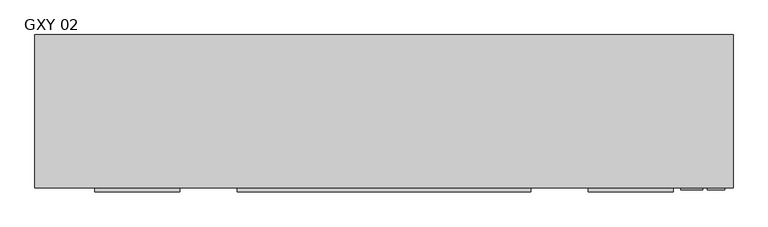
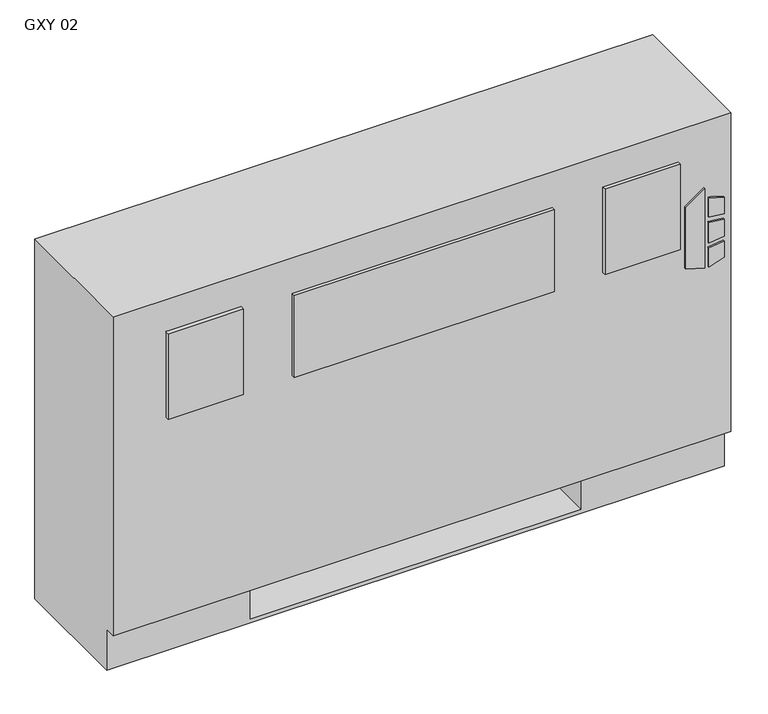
"""IFC4 building model written with IfcOpenShell, lengths in millimetres: proxy geometry, Vertical_Fan_Coil_Unit_-_GXY_-_IEC_-_2-Pipe_FS-FR_RH_2022 : GXY 02."""

import ifcopenshell
import ifcopenshell.guid

model = None  # the IFC model being written
_history = None  # IfcOwnerHistory: only IFC2X3 demands one
_inside = {}  # id of a spatial element -> (the spatial element, [elements in it])
_under = {}  # id of a project, library or spatial element -> (it, [spatial elements below it])
_declared = {}  # id of a project -> (the project, [libraries it declares])
_typed = {}  # id of a type object -> (the type object, [elements of that type])
_made_of = {}  # id of a material, layer set ... -> (it, [elements and type objects made of it])


def new_model(schema):
    """Start an empty IFC model of exactly this schema.

    Asked for "IFC4X3", IfcOpenShell would pick the latest addendum, in which some entities
    have other attributes; the version numbers below select the first issue.
    IFC2X3 requires an IfcOwnerHistory on every rooted entity: one is made here for all.
    """
    global model, _history
    if schema == "IFC4X3":
        model = ifcopenshell.file(schema_version=(4, 3, 0, 0))
    else:
        model = ifcopenshell.file(schema=schema)
    _inside.clear()
    _under.clear()
    _declared.clear()
    _typed.clear()
    _made_of.clear()
    _history = None
    if model.schema == "IFC2X3":
        org = make("IfcOrganization", Name="unknown")
        user = make(
            "IfcPersonAndOrganization",
            ThePerson=make("IfcPerson", FamilyName="unknown"),
            TheOrganization=org,
        )
        app = make(
            "IfcApplication",
            ApplicationDeveloper=org,
            Version="unknown",
            ApplicationFullName="unknown",
            ApplicationIdentifier="unknown",
        )
        _history = make(
            "IfcOwnerHistory",
            OwningUser=user,
            OwningApplication=app,
            ChangeAction="ADDED",
            CreationDate=0,
        )
    return model


def make(cls, **values):
    """One entity of the class cls with the attributes given. An attribute that is None is left unset."""
    return model.create_entity(
        cls, **{name: value for name, value in values.items() if value is not None}
    )


def rooted(cls, **values):
    """An entity with a GlobalId (a new one), such as an element, a storey or a relation."""
    return make(cls, GlobalId=ifcopenshell.guid.new(), OwnerHistory=_history, **values)


def si_unit(unit_type, name, prefix=None):
    """IfcSIUnit, for example si_unit("LENGTHUNIT", "METRE", prefix="MILLI")."""
    return make("IfcSIUnit", UnitType=unit_type, Prefix=prefix, Name=name)


def assignment(units):
    """IfcUnitAssignment: the units of a project."""
    return None if units is None else make("IfcUnitAssignment", Units=units)


def point(xyz):
    """IfcCartesianPoint."""
    return None if xyz is None else make("IfcCartesianPoint", Coordinates=xyz)


def direction(xyz):
    """IfcDirection."""
    return None if xyz is None else make("IfcDirection", DirectionRatios=xyz)


def frame(location, z_axis=None, x_axis=None):
    """IfcAxis2Placement3D, a coordinate frame: its origin and axes. An axis left out is left unset."""
    return make(
        "IfcAxis2Placement3D",
        Location=point(location),
        Axis=direction(z_axis),
        RefDirection=direction(x_axis),
    )


def frame_2d(location, x_axis=None):
    """IfcAxis2Placement2D, a coordinate frame in the plane: its origin and x axis."""
    return make(
        "IfcAxis2Placement2D", Location=point(location), RefDirection=direction(x_axis)
    )


def origin():
    """The frame at (0, 0, 0) with its axes left unset."""
    return frame((0.0, 0.0, 0.0))


def place(relative_to, where):
    """IfcLocalPlacement: puts the frame where relative to a parent placement (None: the world)."""
    return make(
        "IfcLocalPlacement", PlacementRelTo=relative_to, RelativePlacement=where
    )


def context(
    kind, dimensions, precision=None, world=None, true_north=None, identifier=None
):
    """IfcGeometricRepresentationContext, for example the 3D "Model" context."""
    return make(
        "IfcGeometricRepresentationContext",
        ContextIdentifier=identifier,
        ContextType=kind,
        CoordinateSpaceDimension=dimensions,
        Precision=precision,
        WorldCoordinateSystem=world,
        TrueNorth=true_north,
    )


def project(units=None, contexts=None):
    """IfcProject with its units and contexts."""
    return rooted(
        "IfcProject",
        Name="project",
        RepresentationContexts=contexts,
        UnitsInContext=assignment(units),
    )


def spatial(cls, under=None, at=None, **own):
    """A site, building, storey or space (cls), placed at a placement, below another one or the project."""
    s = rooted(cls, ObjectPlacement=at, **own)
    if under is not None:
        _under.setdefault(under.id(), (under, []))[1].append(s)
    return s


def polyline(points):
    """IfcPolyline through the points."""
    return make("IfcPolyline", Points=[point(p) for p in points])


def circle_curve(where, radius):
    """IfcCircle in the frame where."""
    return make("IfcCircle", Position=where, Radius=radius)


def trimmed(basis, trim1, trim2, sense, master):
    """IfcTrimmedCurve: the piece of a basis curve between two trims."""
    return make(
        "IfcTrimmedCurve",
        BasisCurve=basis,
        Trim1=trim1,
        Trim2=trim2,
        SenseAgreement=sense,
        MasterRepresentation=master,
    )


def segment(curve, same_sense, transition):
    """IfcCompositeCurveSegment."""
    return make(
        "IfcCompositeCurveSegment",
        Transition=transition,
        SameSense=same_sense,
        ParentCurve=curve,
    )


def composite_curve(segments, self_intersect=None):
    """IfcCompositeCurve: segments joined end to end."""
    return make("IfcCompositeCurve", Segments=segments, SelfIntersect=self_intersect)


def outline(outer, holes=None, kind="AREA"):
    """IfcArbitraryClosedProfileDef: a profile drawn as a closed curve; with holes, ...WithVoids."""
    if holes is None:
        return make("IfcArbitraryClosedProfileDef", ProfileType=kind, OuterCurve=outer)
    return make(
        "IfcArbitraryProfileDefWithVoids",
        ProfileType=kind,
        OuterCurve=outer,
        InnerCurves=holes,
    )


def extrude(swept, where, along, depth):
    """IfcExtrudedAreaSolid: the profile swept, set in the frame where, extruded along a direction by depth."""
    return make(
        "IfcExtrudedAreaSolid",
        SweptArea=swept,
        Position=where,
        ExtrudedDirection=direction(along),
        Depth=depth,
    )


def shape(context_of_items, identifier, shape_type, items):
    """IfcShapeRepresentation: the items that make up one representation, for example the "Body"."""
    return make(
        "IfcShapeRepresentation",
        ContextOfItems=context_of_items,
        RepresentationIdentifier=identifier,
        RepresentationType=shape_type,
        Items=items,
    )


def source(mapping_origin, context_of_items, identifier, shape_type, items):
    """IfcRepresentationMap: a shape defined once, which mapped items show again and again."""
    return make(
        "IfcRepresentationMap",
        MappingOrigin=mapping_origin,
        MappedRepresentation=shape(context_of_items, identifier, shape_type, items),
    )


def transform(
    local_origin,
    x_axis=None,
    y_axis=None,
    z_axis=None,
    scale=None,
    scale2=None,
    scale3=None,
    uniform=True,
):
    """IfcCartesianTransformationOperator3D, or its non-uniform kind. x_axis, y_axis, z_axis: its Axis1, 2, 3."""
    if uniform:
        return make(
            "IfcCartesianTransformationOperator3D",
            Axis1=direction(x_axis),
            Axis2=direction(y_axis),
            LocalOrigin=point(local_origin),
            Scale=scale,
            Axis3=direction(z_axis),
        )
    return make(
        "IfcCartesianTransformationOperator3DnonUniform",
        Axis1=direction(x_axis),
        Axis2=direction(y_axis),
        LocalOrigin=point(local_origin),
        Scale=scale,
        Axis3=direction(z_axis),
        Scale2=scale2,
        Scale3=scale3,
    )


def mapped(mapping_source, mapping_target):
    """IfcMappedItem: shows the shape of a source again, moved by a transform."""
    return make(
        "IfcMappedItem", MappingSource=mapping_source, MappingTarget=mapping_target
    )


def made_of(thing, what):
    """Note that an element or type object is made of a material, layer set ...; save() writes the relation."""
    if what is not None:
        _made_of.setdefault(what.id(), (what, []))[1].append(thing)
    return thing


def element(
    cls,
    number,
    at=None,
    inside=None,
    cuts=None,
    type_object=None,
    material=None,
    context=None,
    identifier="Body",
    shape_type=None,
    held_by="IfcProductDefinitionShape",
    body=None,
    shapes=None,
    **own,
):
    """One element of the class cls, such as IfcWall. Its Tag is "e" and its number.

    at: its placement. inside: the storey or other place that contains it. cuts: it is an
    opening in that element (IfcRelVoidsElement). A single representation is given by context,
    identifier, shape_type and body (its items); several are given by shapes. held_by: the class
    of the entity that holds the representations. save() writes the other relations.
    """
    e = rooted(cls, Tag="e%d" % number, ObjectPlacement=at, **own)
    if body is not None:
        shapes = [shape(context, identifier, shape_type, body)]
    if shapes is not None:
        e.Representation = make(held_by, Representations=shapes)
    if inside is not None:
        _inside.setdefault(inside.id(), (inside, []))[1].append(e)
    if cuts is not None:
        rooted(
            "IfcRelVoidsElement", RelatingBuildingElement=cuts, RelatedOpeningElement=e
        )
    if type_object is not None:
        _typed.setdefault(type_object.id(), (type_object, []))[1].append(e)
    return made_of(e, material)


def aggregate(whole, parts):
    """IfcRelAggregates: a whole, such as a stair, and the parts it consists of."""
    return rooted("IfcRelAggregates", RelatingObject=whole, RelatedObjects=parts)


def save(model, path):
    """Write the relations noted so far, then the file.

    IfcRelAggregates (storeys below a building ...), IfcRelContainedInSpatialStructure (elements
    in a storey), IfcRelDefinesByType, IfcRelAssociatesMaterial and IfcRelDeclares: one each for
    every whole, place, type object, material and project.
    """
    for whole, parts in _under.values():
        aggregate(whole, parts)
    for where, things in _inside.values():
        rooted(
            "IfcRelContainedInSpatialStructure",
            RelatedElements=things,
            RelatingStructure=where,
        )
    for kind, things in _typed.values():
        rooted("IfcRelDefinesByType", RelatedObjects=things, RelatingType=kind)
    for what, things in _made_of.values():
        rooted("IfcRelAssociatesMaterial", RelatedObjects=things, RelatingMaterial=what)
    for by, libraries in _declared.values():
        rooted("IfcRelDeclares", RelatingContext=by, RelatedDefinitions=libraries)
    model.write(path)


def plane_surface(at):
    """IfcPlane: the flat surface through the origin of the frame at, square to its z axis."""
    return make("IfcPlane", Position=at)


def revolved_surface(curve, axis_point, axis_direction):
    """IfcSurfaceOfRevolution: the curve turned about the line through axis_point along axis_direction."""
    return make(
        "IfcSurfaceOfRevolution",
        SweptCurve=make("IfcArbitraryOpenProfileDef", ProfileType="CURVE", Curve=curve),
        AxisPosition=make("IfcAxis1Placement", Location=point(axis_point), Axis=direction(axis_direction)),
    )


def advanced_brep(points, edges, surfaces, faces):
    """IfcAdvancedBrep: a solid bounded by faces that lie on surfaces and meet in shared edges.

    An edge is (start, end): straight between two places in points (the first is 0);
    or (start, end, curve); or (start, end, curve, False) where it runs against its curve.
    A face is (place in surfaces, loops), or (place, loops, False) where it looks against
    its surface's normal. A loop lists edges by number (the first is 1), with a minus sign
    where the edge is run from its end to its start. The first loop is the outer one.
    """
    corners = [point(p) for p in points]
    vertices = [make("IfcVertexPoint", VertexGeometry=c) for c in corners]
    made = []
    for start, end, *more in edges:
        made.append(
            make(
                "IfcEdgeCurve",
                EdgeStart=vertices[start],
                EdgeEnd=vertices[end],
                EdgeGeometry=more[0] if more else make("IfcPolyline", Points=[corners[start], corners[end]]),
                SameSense=more[1] if len(more) > 1 else True,
            )
        )
    hull = []
    for where, loops, *sense in faces:
        bounds = []
        for j, loop in enumerate(loops):
            ring = [make("IfcOrientedEdge", EdgeElement=made[abs(k) - 1], Orientation=k > 0) for k in loop]
            bounds.append(
                make(
                    "IfcFaceOuterBound" if j == 0 else "IfcFaceBound",
                    Bound=make("IfcEdgeLoop", EdgeList=ring),
                    Orientation=True,
                )
            )
        hull.append(make("IfcAdvancedFace", Bounds=bounds, FaceSurface=surfaces[where], SameSense=sense[0] if sense else True))
    return make("IfcAdvancedBrep", Outer=make("IfcClosedShell", CfsFaces=hull))


def gxy_02_ee521cdb(model_context):
    return source(origin(), model_context, "Body", "SolidModel", [
        extrude(outline(polyline([(391.6086829, 595.3868862), (381.6606126, 627.5602728), (523.831537, 627.5602728), (500.8095309, 595.3868862), (391.6086829, 595.3868862)])), frame((0.0, 12.7, 0.0), z_axis=(0.0, 1.0, 0.0), x_axis=(0.0, 0.0, 1.0)), (0.0, 0.0, 1.0), 3.175),
        extrude(outline(polyline([(470.6079683, 634.3186058), (467.4055757, 660.4), (496.6344168, 660.4), (504.6988318, 634.3186058), (470.6079683, 634.3186058)])), frame((0.0, 12.7, 0.0), z_axis=(0.0, 1.0, 0.0), x_axis=(0.0, 0.0, 1.0)), (0.0, 0.0, 1.0), 3.175),
        extrude(outline(polyline([(418.7444414, 660.4), (415.0789404, 634.3186058), (381.6606126, 634.3186058), (390.2948498, 660.4), (418.7444414, 660.4)])), frame((0.0, 12.7, 0.0), z_axis=(0.0, 1.0, 0.0), x_axis=(0.0, 0.0, 1.0)), (0.0, 0.0, 1.0), 3.175),
        extrude(outline(polyline([(458.0596028, 660.4), (460.3414292, 634.3186058), (424.4038806, 634.3186058), (427.1451456, 660.4), (458.0596028, 660.4)])), frame((0.0, 12.7, 0.0), z_axis=(0.0, 1.0, 0.0), x_axis=(0.0, 0.0, 1.0)), (0.0, 0.0, 1.0), 3.175),
        extrude(outline(polyline([(-152.4, 9.525), (-279.4, 9.525), (-279.4, 15.875), (-152.4, 15.875), (-152.4, 9.525)])), frame((0.0, 0.0, 431.8), z_axis=(0.0, 0.0, 1.0), x_axis=(1.0, 0.0, 0.0)), (0.0, 0.0, 1.0), 152.4),
        extrude(outline(polyline([(371.475, 9.525), (-66.675, 9.525), (-66.675, 15.875), (371.475, 15.875), (371.475, 9.525)])), frame((0.0, 0.0, 431.8), z_axis=(0.0, 0.0, 1.0), x_axis=(1.0, 0.0, 0.0)), (0.0, 0.0, 1.0), 146.05),
        extrude(outline(polyline([(584.2, 9.525), (457.2, 9.525), (457.2, 15.875), (584.2, 15.875), (584.2, 9.525)])), frame((0.0, 0.0, 431.8), z_axis=(0.0, 0.0, 1.0), x_axis=(1.0, 0.0, 0.0)), (0.0, 0.0, 1.0), 152.4),
        extrude(outline(polyline([(-247.65, 81.534), (-247.65, 223.266), (-127.0, 223.266), (-127.0, 81.534), (-247.65, 81.534)])), frame((0.0, 0.0, 327.025), z_axis=(0.0, 0.0, 1.0), x_axis=(1.0, 0.0, 0.0)), (0.0, 0.0, 1.0), 260.35),
        extrude(outline(composite_curve([segment(trimmed(circle_curve(frame_2d((78.9432, 398.5514)), 7.9375), [point((78.9432, 406.4889))], [point((78.9432, 390.6139))], False, "CARTESIAN"), True, "CONTINUOUS"), segment(trimmed(circle_curve(frame_2d((78.9432, 398.5514)), 7.9375), [point((78.9432, 390.6139))], [point((78.9432, 406.4889))], False, "CARTESIAN"), True, "CONTINUOUS")], self_intersect=False)), frame((431.8, 0.0, 0.0), z_axis=(1.0, 0.0, 0.0), x_axis=(0.0, 1.0, 0.0)), (0.0, 0.0, 1.0), 50.8),
        extrude(outline(composite_curve([segment(trimmed(circle_curve(frame_2d((155.9052, 537.3878)), 7.9375), [point((155.9052, 545.3253))], [point((155.9052, 529.4503))], False, "CARTESIAN"), True, "CONTINUOUS"), segment(trimmed(circle_curve(frame_2d((155.9052, 537.3878)), 7.9375), [point((155.9052, 529.4503))], [point((155.9052, 545.3253))], False, "CARTESIAN"), True, "CONTINUOUS")], self_intersect=False)), frame((431.8, 0.0, 0.0), z_axis=(1.0, 0.0, 0.0), x_axis=(0.0, 1.0, 0.0)), (0.0, 0.0, 1.0), 50.8),
        advanced_brep(
        [(673.1, 244.475, 641.35), (-368.3, 244.475, 641.35), (-368.3, 15.875, 641.35), (673.1, 15.875, 641.35), (-368.3, 244.475, 0.0), (673.1, 244.475, 0.0), (673.1, 34.925, 0.0), (-368.3, 34.925, 0.0), (431.8, 244.475, 73.025), (660.4, 244.475, 73.025), (660.4, 244.475, 628.65), (431.8, 244.475, 628.65), (431.8, 244.475, 418.0400565), (460.375, 244.475, 418.0400565), (460.375, 244.475, 388.4099435), (431.8, 244.475, 388.4099435), (431.8, 244.475, 290.5125), (460.375, 244.475, 290.5125), (460.375, 244.475, 261.9375), (431.8, 244.475, 261.9375), (431.8, 244.475, 119.0625), (460.375, 244.475, 119.0625), (460.375, 244.475, 90.4875), (431.8, 244.475, 90.4875), (-127.0, 244.475, 628.65), (-355.6, 244.475, 628.65), (-355.6, 244.475, 73.025), (-127.0, 244.475, 73.025), (-127.0, 244.475, 90.4875), (-155.575, 244.475, 90.4875), (-155.575, 244.475, 119.0625), (-127.0, 244.475, 119.0625), (-127.0, 244.475, 261.9375), (-155.575, 244.475, 261.9375), (-155.575, 244.475, 290.5125), (-127.0, 244.475, 290.5125), (-127.0, 244.475, 388.4099435), (-155.575, 244.475, 388.4099435), (-155.575, 244.475, 418.0400565), (-127.0, 244.475, 418.0400565), (450.0626, 244.475, 104.775), (438.9374, 244.475, 104.775), (450.0626, 244.475, 403.225), (438.9374, 244.475, 403.225), (450.0626, 244.475, 276.225), (438.9374, 244.475, 276.225), (-134.1374, 244.475, 104.775), (-145.2626, 244.475, 104.775), (-134.1374, 244.475, 276.225), (-145.2626, 244.475, 276.225), (-134.1374, 244.475, 403.225), (-145.2626, 244.475, 403.225), (-368.3, 34.925, 73.025), (-368.3, 15.875, 73.025), (673.1, 15.875, 73.025), (673.1, 34.925, 73.025), (-127.0, 34.925, 73.025), (-127.0, 219.075, 73.025), (431.8, 219.075, 73.025), (431.8, 34.925, 73.025), (431.8, 34.925, 6.35), (-127.0, 34.925, 6.35), (431.8, 41.275, 628.65), (660.4, 41.275, 628.65), (660.4, 41.275, 73.025), (431.8, 41.275, 73.025), (-127.0, 41.275, 628.65), (-127.0, 41.275, 73.025), (-355.6, 41.275, 73.025), (-355.6, 41.275, 628.65), (431.8, 219.075, 73.025), (431.8, 238.125, 90.4875), (431.8, 238.125, 119.0625), (431.8, 238.125, 261.9375), (431.8, 238.125, 290.5125), (431.8, 238.125, 388.4099435), (431.8, 238.125, 418.0400565), (-127.0, 219.075, 73.025), (-127.0, 238.125, 418.0400565), (-127.0, 238.125, 388.4099435), (-127.0, 238.125, 290.5125), (-127.0, 238.125, 261.9375), (-127.0, 238.125, 119.0625), (-127.0, 238.125, 90.4875), (-127.0, 219.075, 6.35), (431.8, 219.075, 6.35), (460.375, 238.125, 90.4875), (460.375, 238.125, 119.0625), (438.9374, 238.125, 104.775), (450.0626, 238.125, 104.775), (460.375, 238.125, 261.9375), (460.375, 238.125, 290.5125), (438.9374, 238.125, 276.225), (450.0626, 238.125, 276.225), (460.375, 238.125, 388.4099435), (460.375, 238.125, 418.0400565), (438.9374, 238.125, 403.225), (450.0626, 238.125, 403.225), (-155.575, 238.125, 119.0625), (-155.575, 238.125, 90.4875), (-145.2626, 238.125, 104.775), (-134.1374, 238.125, 104.775), (-155.575, 238.125, 290.5125), (-155.575, 238.125, 261.9375), (-145.2626, 238.125, 276.225), (-134.1374, 238.125, 276.225), (-155.575, 238.125, 418.0400565), (-155.575, 238.125, 388.4099435), (-145.2626, 238.125, 403.225), (-134.1374, 238.125, 403.225)],
        [
            (0, 1),
            (1, 2),
            (2, 3),
            (3, 0),
            (4, 5),
            (5, 6),
            (6, 7),
            (7, 4),
            (0, 5),
            (4, 1),
            (8, 9),
            (9, 10),
            (10, 11),
            (11, 12),
            (12, 13),
            (13, 14),
            (14, 15),
            (15, 16),
            (16, 17),
            (17, 18),
            (18, 19),
            (19, 20),
            (20, 21),
            (21, 22),
            (22, 23),
            (23, 8),
            (24, 25),
            (25, 26),
            (26, 27),
            (27, 28),
            (28, 29),
            (29, 30),
            (30, 31),
            (31, 32),
            (32, 33),
            (33, 34),
            (34, 35),
            (35, 36),
            (36, 37),
            (37, 38),
            (38, 39),
            (39, 24),
            (40, 41, circle_curve(frame((444.5, 244.475, 104.775), z_axis=(0.0, -1.0, 0.0), x_axis=(-1.0, 0.0, 0.0)), 5.5626)),
            (41, 40, circle_curve(frame((444.5, 244.475, 104.775), z_axis=(0.0, -1.0, 0.0), x_axis=(-1.0, 0.0, 0.0)), 5.5626)),
            (42, 43, circle_curve(frame((444.5, 244.475, 403.225), z_axis=(0.0, -1.0, 0.0), x_axis=(-1.0, 0.0, 0.0)), 5.5626)),
            (43, 42, circle_curve(frame((444.5, 244.475, 403.225), z_axis=(0.0, -1.0, 0.0), x_axis=(-1.0, 0.0, 0.0)), 5.5626)),
            (44, 45, circle_curve(frame((444.5, 244.475, 276.225), z_axis=(0.0, -1.0, 0.0), x_axis=(-1.0, 0.0, 0.0)), 5.5626)),
            (45, 44, circle_curve(frame((444.5, 244.475, 276.225), z_axis=(0.0, -1.0, 0.0), x_axis=(-1.0, 0.0, 0.0)), 5.5626)),
            (46, 47, circle_curve(frame((-139.7, 244.475, 104.775), z_axis=(0.0, -1.0, 0.0), x_axis=(-1.0, 0.0, 0.0)), 5.5626)),
            (47, 46, circle_curve(frame((-139.7, 244.475, 104.775), z_axis=(0.0, -1.0, 0.0), x_axis=(-1.0, 0.0, 0.0)), 5.5626)),
            (48, 49, circle_curve(frame((-139.7, 244.475, 276.225), z_axis=(0.0, -1.0, 0.0), x_axis=(-1.0, 0.0, 0.0)), 5.5626)),
            (49, 48, circle_curve(frame((-139.7, 244.475, 276.225), z_axis=(0.0, -1.0, 0.0), x_axis=(-1.0, 0.0, 0.0)), 5.5626)),
            (50, 51, circle_curve(frame((-139.7, 244.475, 403.225), z_axis=(0.0, -1.0, 0.0), x_axis=(-1.0, 0.0, 0.0)), 5.5626)),
            (51, 50, circle_curve(frame((-139.7, 244.475, 403.225), z_axis=(0.0, -1.0, 0.0), x_axis=(-1.0, 0.0, 0.0)), 5.5626)),
            (7, 52),
            (52, 53),
            (53, 2),
            (53, 54),
            (54, 3),
            (54, 55),
            (55, 6),
            (52, 56),
            (56, 57),
            (57, 58),
            (58, 59),
            (59, 55),
            (59, 60),
            (60, 61),
            (61, 56),
            (62, 63),
            (63, 64),
            (64, 65),
            (65, 62),
            (66, 67),
            (67, 68),
            (68, 69),
            (69, 66),
            (65, 70),
            (70, 8),
            (23, 71),
            (71, 72),
            (72, 20),
            (19, 73),
            (73, 74),
            (74, 16),
            (15, 75),
            (75, 76),
            (76, 12),
            (11, 62),
            (64, 9),
            (63, 10),
            (69, 25),
            (24, 66),
            (68, 26),
            (67, 77),
            (77, 27),
            (39, 78),
            (78, 79),
            (79, 36),
            (35, 80),
            (80, 81),
            (81, 32),
            (31, 82),
            (82, 83),
            (83, 28),
            (57, 84),
            (84, 85),
            (85, 58),
            (85, 60),
            (84, 61),
            (71, 86),
            (86, 87),
            (87, 72),
            (88, 89, circle_curve(frame((444.5, 238.125, 104.775), z_axis=(0.0, 1.0, 0.0), x_axis=(-1.0, 0.0, 0.0)), 5.5626)),
            (89, 88, circle_curve(frame((444.5, 238.125, 104.775), z_axis=(0.0, 1.0, 0.0), x_axis=(-1.0, 0.0, 0.0)), 5.5626)),
            (73, 90),
            (90, 91),
            (91, 74),
            (92, 93, circle_curve(frame((444.5, 238.125, 276.225), z_axis=(0.0, 1.0, 0.0), x_axis=(-1.0, 0.0, 0.0)), 5.5626)),
            (93, 92, circle_curve(frame((444.5, 238.125, 276.225), z_axis=(0.0, 1.0, 0.0), x_axis=(-1.0, 0.0, 0.0)), 5.5626)),
            (75, 94),
            (94, 95),
            (95, 76),
            (96, 97, circle_curve(frame((444.5, 238.125, 403.225), z_axis=(0.0, 1.0, 0.0), x_axis=(-1.0, 0.0, 0.0)), 5.5626)),
            (97, 96, circle_curve(frame((444.5, 238.125, 403.225), z_axis=(0.0, 1.0, 0.0), x_axis=(-1.0, 0.0, 0.0)), 5.5626)),
            (98, 99),
            (99, 83),
            (82, 98),
            (100, 101, circle_curve(frame((-139.7, 238.125, 104.775), z_axis=(0.0, 1.0, 0.0), x_axis=(-1.0, 0.0, 0.0)), 5.5626)),
            (101, 100, circle_curve(frame((-139.7, 238.125, 104.775), z_axis=(0.0, 1.0, 0.0), x_axis=(-1.0, 0.0, 0.0)), 5.5626)),
            (102, 103),
            (103, 81),
            (80, 102),
            (104, 105, circle_curve(frame((-139.7, 238.125, 276.225), z_axis=(0.0, 1.0, 0.0), x_axis=(-1.0, 0.0, 0.0)), 5.5626)),
            (105, 104, circle_curve(frame((-139.7, 238.125, 276.225), z_axis=(0.0, 1.0, 0.0), x_axis=(-1.0, 0.0, 0.0)), 5.5626)),
            (106, 107),
            (107, 79),
            (78, 106),
            (108, 109, circle_curve(frame((-139.7, 238.125, 403.225), z_axis=(0.0, 1.0, 0.0), x_axis=(-1.0, 0.0, 0.0)), 5.5626)),
            (109, 108, circle_curve(frame((-139.7, 238.125, 403.225), z_axis=(0.0, 1.0, 0.0), x_axis=(-1.0, 0.0, 0.0)), 5.5626)),
            (87, 21),
            (86, 22),
            (91, 17),
            (90, 18),
            (95, 13),
            (94, 14),
            (30, 98),
            (99, 29),
            (34, 102),
            (103, 33),
            (38, 106),
            (107, 37),
            (88, 41),
            (40, 89),
            (96, 43),
            (42, 97),
            (92, 45),
            (44, 93),
            (100, 47),
            (46, 101),
            (104, 49),
            (48, 105),
            (108, 51),
            (50, 109),
        ],
        [
            plane_surface(frame((-368.3, 244.475, 641.35), z_axis=(0.0, 0.0, 1.0), x_axis=(-1.0, 0.0, 0.0))),
            plane_surface(frame((-368.3, 244.475, 0.0), z_axis=(0.0, 0.0, -1.0), x_axis=(1.0, 0.0, 0.0))),
            plane_surface(frame((673.1, 244.475, 641.35), z_axis=(0.0, 1.0, 0.0), x_axis=(0.0, 0.0, -1.0))),
            plane_surface(frame((-368.3, 244.475, 641.35), z_axis=(-1.0, 0.0, 0.0), x_axis=(0.0, 0.0, -1.0))),
            plane_surface(frame((-368.3, 15.875, 641.35), z_axis=(0.0, -1.0, 0.0), x_axis=(0.0, 0.0, -1.0))),
            plane_surface(frame((673.1, 15.875, 641.35), z_axis=(1.0, 0.0, 0.0), x_axis=(0.0, 0.0, -1.0))),
            plane_surface(frame((-368.3, 15.875, 73.025), z_axis=(0.0, 0.0, -1.0), x_axis=(1.0, 0.0, 0.0))),
            plane_surface(frame((-368.3, 34.925, 73.025), z_axis=(0.0, -1.0, 0.0), x_axis=(1.0, 0.0, 0.0))),
            plane_surface(frame((431.8, 41.275, 628.65), z_axis=(0.0, 1.0, 0.0), x_axis=(0.0, 0.0, -1.0))),
            plane_surface(frame((431.8, 41.275, 628.65), z_axis=(1.0, 0.0, 0.0), x_axis=(0.0, 1.0, 0.0))),
            plane_surface(frame((431.8, 41.275, 73.025), z_axis=(0.0, 0.0, 1.0), x_axis=(0.0, 1.0, 0.0))),
            plane_surface(frame((660.4, 41.275, 73.025), z_axis=(-1.0, 0.0, 0.0), x_axis=(0.0, 1.0, 0.0))),
            plane_surface(frame((660.4, 41.275, 628.65), z_axis=(0.0, 0.0, -1.0), x_axis=(0.0, 1.0, 0.0))),
            plane_surface(frame((-127.0, 41.275, 628.65), z_axis=(0.0, 0.0, -1.0), x_axis=(0.0, 1.0, 0.0))),
            plane_surface(frame((-355.6, 41.275, 628.65), z_axis=(1.0, 0.0, 0.0), x_axis=(0.0, 1.0, 0.0))),
            plane_surface(frame((-355.6, 41.275, 73.025), z_axis=(0.0, 0.0, 1.0), x_axis=(0.0, 1.0, 0.0))),
            plane_surface(frame((-127.0, 41.275, 73.025), z_axis=(-1.0, 0.0, 0.0), x_axis=(0.0, 1.0, 0.0))),
            plane_surface(frame((431.8, 219.075, 73.025), z_axis=(0.0, -1.0, 0.0), x_axis=(0.0, 0.0, -1.0))),
            plane_surface(frame((431.8, 219.075, 73.025), z_axis=(-1.0, 0.0, 0.0), x_axis=(0.0, -1.0, 0.0))),
            plane_surface(frame((431.8, 219.075, 6.35), z_axis=(0.0, 0.0, 1.0), x_axis=(0.0, -1.0, 0.0))),
            plane_surface(frame((-127.0, 219.075, 6.35), z_axis=(1.0, 0.0, 0.0), x_axis=(0.0, -1.0, 0.0))),
            plane_surface(frame((460.375, 238.125, 119.0625), z_axis=(0.0, -1.0, 0.0), x_axis=(-1.0, 0.0, 0.0))),
            plane_surface(frame((431.8, 244.475, 119.0625), z_axis=(0.0, 0.0, 1.0), x_axis=(0.0, -1.0, 0.0))),
            plane_surface(frame((460.375, 244.475, 119.0625), z_axis=(1.0, 0.0, 0.0), x_axis=(0.0, -1.0, 0.0))),
            plane_surface(frame((460.375, 244.475, 90.4875), z_axis=(0.0, 0.0, -1.0), x_axis=(0.0, -1.0, 0.0))),
            plane_surface(frame((431.8, 244.475, 290.5125), z_axis=(0.0, 0.0, 1.0), x_axis=(0.0, -1.0, 0.0))),
            plane_surface(frame((460.375, 244.475, 290.5125), z_axis=(1.0, 0.0, 0.0), x_axis=(0.0, -1.0, 0.0))),
            plane_surface(frame((460.375, 244.475, 261.9375), z_axis=(0.0, 0.0, -1.0), x_axis=(0.0, -1.0, 0.0))),
            plane_surface(frame((431.8, 244.475, 418.0400565), z_axis=(0.0, 0.0, 1.0), x_axis=(0.0, -1.0, 0.0))),
            plane_surface(frame((460.375, 244.475, 418.0400565), z_axis=(1.0, 0.0, 0.0), x_axis=(0.0, -1.0, 0.0))),
            plane_surface(frame((460.375, 244.475, 388.4099435), z_axis=(0.0, 0.0, -1.0), x_axis=(0.0, -1.0, 0.0))),
            plane_surface(frame((-155.575, 244.475, 119.0625), z_axis=(0.0, 0.0, 1.0), x_axis=(0.0, -1.0, 0.0))),
            plane_surface(frame((-127.0, 244.475, 90.4875), z_axis=(0.0, 0.0, -1.0), x_axis=(0.0, -1.0, 0.0))),
            plane_surface(frame((-155.575, 244.475, 90.4875), z_axis=(-1.0, 0.0, 0.0), x_axis=(0.0, -1.0, 0.0))),
            plane_surface(frame((-155.575, 244.475, 290.5125), z_axis=(0.0, 0.0, 1.0), x_axis=(0.0, -1.0, 0.0))),
            plane_surface(frame((-127.0, 244.475, 261.9375), z_axis=(0.0, 0.0, -1.0), x_axis=(0.0, -1.0, 0.0))),
            plane_surface(frame((-155.575, 244.475, 261.9375), z_axis=(-1.0, 0.0, 0.0), x_axis=(0.0, -1.0, 0.0))),
            plane_surface(frame((-155.575, 244.475, 418.0400565), z_axis=(0.0, 0.0, 1.0), x_axis=(0.0, -1.0, 0.0))),
            plane_surface(frame((-127.0, 244.475, 388.4099435), z_axis=(0.0, 0.0, -1.0), x_axis=(0.0, -1.0, 0.0))),
            plane_surface(frame((-155.575, 244.475, 388.4099435), z_axis=(-1.0, 0.0, 0.0), x_axis=(0.0, -1.0, 0.0))),
            revolved_surface(polyline([(438.9374, 238.125, 104.775), (438.9374, 244.475, 104.775)]), (444.5, 244.475, 104.775), (0.0, -1.0, 0.0)),
            revolved_surface(polyline([(438.9374, 238.125, 403.225), (438.9374, 244.475, 403.225)]), (444.5, 244.475, 403.225), (0.0, -1.0, 0.0)),
            revolved_surface(polyline([(438.9374, 238.125, 276.225), (438.9374, 244.475, 276.225)]), (444.5, 244.475, 276.225), (0.0, -1.0, 0.0)),
            revolved_surface(polyline([(-145.2626, 238.125, 104.775), (-145.2626, 244.475, 104.775)]), (-139.7, 244.475, 104.775), (0.0, -1.0, 0.0)),
            revolved_surface(polyline([(-145.2626, 238.125, 276.225), (-145.2626, 244.475, 276.225)]), (-139.7, 244.475, 276.225), (0.0, -1.0, 0.0)),
            revolved_surface(polyline([(-145.2626, 238.125, 403.225), (-145.2626, 244.475, 403.225)]), (-139.7, 244.475, 403.225), (0.0, -1.0, 0.0)),
        ],
        [
            (0, [[1, 2, 3, 4]]),
            (1, [[5, 6, 7, 8]]),
            (2, [[-1, 9, -5, 10], [11, 12, 13, 14, 15, 16, 17, 18, 19, 20, 21, 22, 23, 24, 25, 26], [27, 28, 29, 30, 31, 32, 33, 34, 35, 36, 37, 38, 39, 40, 41, 42], [43, 44], [45, 46], [47, 48], [49, 50], [51, 52], [53, 54]]),
            (3, [[-2, -10, -8, 55, 56, 57]]),
            (4, [[-3, -57, 58, 59]]),
            (5, [[-4, -59, 60, 61, -6, -9]]),
            (6, [[-56, 62, 63, 64, 65, 66, -60, -58]]),
            (7, [[-7, -61, -66, 67, 68, 69, -62, -55]]),
            (8, [[70, 71, 72, 73]]),
            (8, [[74, 75, 76, 77]]),
            (9, [[-73, 78, 79, -26, 80, 81, 82, -22, 83, 84, 85, -18, 86, 87, 88, -14, 89]]),
            (10, [[-72, 90, -11, -79, -78]]),
            (11, [[-71, 91, -12, -90]]),
            (12, [[-70, -89, -13, -91]]),
            (13, [[-77, 92, -27, 93]]),
            (14, [[-76, 94, -28, -92]]),
            (15, [[-75, 95, 96, -29, -94]]),
            (16, [[-74, -93, -42, 97, 98, 99, -38, 100, 101, 102, -34, 103, 104, 105, -30, -96, -95]]),
            (17, [[-64, 106, 107, 108]]),
            (18, [[-108, 109, -67, -65]]),
            (19, [[-107, 110, -68, -109]]),
            (20, [[-106, -63, -69, -110]]),
            (21, [[111, 112, 113, -81], [114, 115]]),
            (21, [[116, 117, 118, -84], [119, 120]]),
            (21, [[121, 122, 123, -87], [124, 125]]),
            (21, [[126, 127, -104, 128], [129, 130]]),
            (21, [[131, 132, -101, 133], [134, 135]]),
            (21, [[136, 137, -98, 138], [139, 140]]),
            (22, [[-113, 141, -23, -82]]),
            (23, [[-112, 142, -24, -141]]),
            (24, [[-111, -80, -25, -142]]),
            (25, [[-118, 143, -19, -85]]),
            (26, [[-117, 144, -20, -143]]),
            (27, [[-116, -83, -21, -144]]),
            (28, [[-123, 145, -15, -88]]),
            (29, [[-122, 146, -16, -145]]),
            (30, [[-121, -86, -17, -146]]),
            (31, [[-128, -103, -33, 147]]),
            (32, [[-127, 148, -31, -105]]),
            (33, [[-126, -147, -32, -148]]),
            (34, [[-133, -100, -37, 149]]),
            (35, [[-132, 150, -35, -102]]),
            (36, [[-131, -149, -36, -150]]),
            (37, [[-138, -97, -41, 151]]),
            (38, [[-137, 152, -39, -99]]),
            (39, [[-136, -151, -40, -152]]),
            (40, [[153, -43, 154, -114]]),
            (40, [[-153, -115, -154, -44]]),
            (41, [[155, -45, 156, -124]]),
            (41, [[-155, -125, -156, -46]]),
            (42, [[157, -47, 158, -119]]),
            (42, [[-157, -120, -158, -48]]),
            (43, [[159, -49, 160, -129]]),
            (43, [[-159, -130, -160, -50]]),
            (44, [[161, -51, 162, -134]]),
            (44, [[-161, -135, -162, -52]]),
            (45, [[163, -53, 164, -139]]),
            (45, [[-163, -140, -164, -54]]),
        ],
    ),
    ])


if __name__ == "__main__":
    model = new_model("IFC4")
    model_context = context("Model", 3, world=origin())
    ifc_project = project(units=[si_unit("LENGTHUNIT", "METRE", prefix="MILLI")], contexts=[model_context])
    site = spatial("IfcSite", under=ifc_project)
    building = spatial("IfcBuilding", under=site)
    placement = place(None, origin())
    gxy_02_shape = gxy_02_ee521cdb(model_context)
    element("IfcBuildingElementProxy", 1, Name="Vertical_Fan_Coil_Unit_-_GXY_-_IEC_-_2-Pipe_FS-FR_RH_2022 : GXY 02", ObjectType="Vertical_Fan_Coil_Unit_-_GXY_-_IEC_-_2-Pipe_FS-FR_RH_2022 : GXY 02", at=placement, inside=building, context=model_context, shape_type="MappedRepresentation", body=[
        mapped(gxy_02_shape, transform((0.0, 0.0, 0.0), x_axis=(1.0, 0.0, 0.0), y_axis=(0.0, 1.0, 0.0), z_axis=(0.0, 0.0, 1.0))),
    ])
    save(model, "model.ifc")
